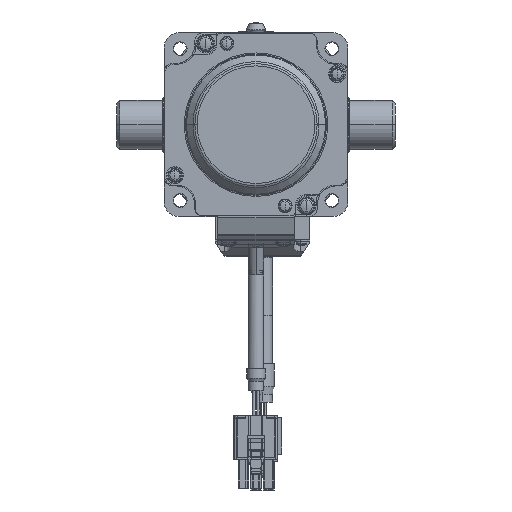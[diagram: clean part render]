
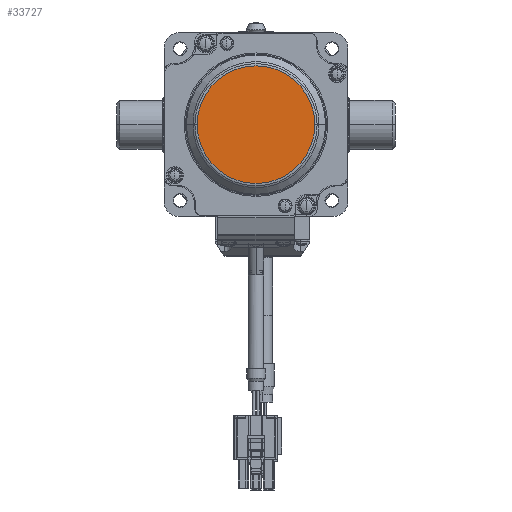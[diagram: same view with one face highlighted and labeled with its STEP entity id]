
A CAD part, front view. The second image highlights one B-rep face of the part: STEP entity #33727.
In plain terms, the highlighted planar face has unit normal (0, -1, 0) as drawn and (-1, 0, 0) by its records, which use the part's own axes.
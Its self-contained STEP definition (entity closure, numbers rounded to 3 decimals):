
#26469=CARTESIAN_POINT('',(-67.5,0.,0.));
#26470=DIRECTION('',(-1.,0.,0.));
#26471=DIRECTION('',(0.,0.,-1.));
#26472=AXIS2_PLACEMENT_3D('',#26469,#26470,#26471);
#26474=CARTESIAN_POINT('',(-67.5,0.,0.));
#26475=DIRECTION('',(-1.,0.,0.));
#26476=DIRECTION('',(0.,0.,1.));
#26477=AXIS2_PLACEMENT_3D('',#26474,#26475,#26476);
#27907=CARTESIAN_POINT('',(-67.5,0.,-19.191));
#27909=VERTEX_POINT('',#27907);
#27913=CARTESIAN_POINT('',(-67.5,0.,19.191));
#27914=VERTEX_POINT('',#27913);
#33717=CARTESIAN_POINT('',(-67.5,-17.,27.));
#33718=DIRECTION('',(1.,0.,0.));
#33719=DIRECTION('',(0.,0.,-1.));
#33720=AXIS2_PLACEMENT_3D('',#33717,#33718,#33719);
#33721=PLANE('',#33720);
#33722=ORIENTED_EDGE('',*,*,#33707,.F.);
#33724=ORIENTED_EDGE('',*,*,#33723,.F.);
#33725=EDGE_LOOP('',(#33722,#33724));
#33726=FACE_OUTER_BOUND('',#33725,.F.);
#33727=ADVANCED_FACE('',(#33726),#33721,.F.);
#26473=CIRCLE('',#26472,19.191);
#26478=CIRCLE('',#26477,19.191);
#33707=EDGE_CURVE('',#27909,#27914,#26473,.T.);
#33723=EDGE_CURVE('',#27914,#27909,#26478,.T.);
